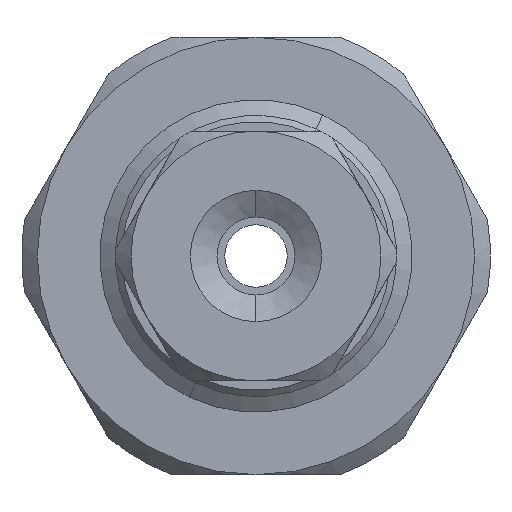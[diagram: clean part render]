
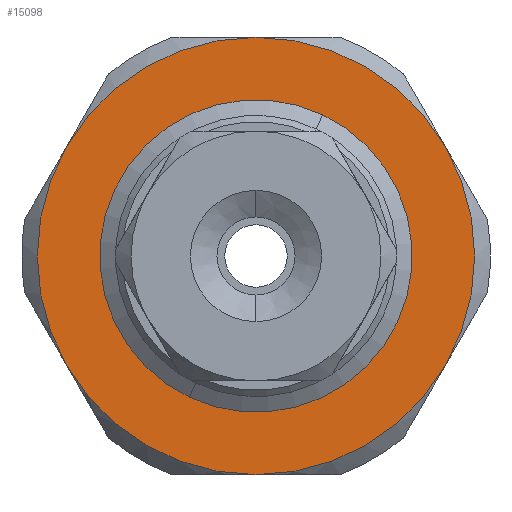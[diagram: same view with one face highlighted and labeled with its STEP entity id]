
A CAD part, front view. The second image highlights one B-rep face of the part: STEP entity #15098.
In plain terms, the highlighted planar face has unit normal (0, -1, 0).
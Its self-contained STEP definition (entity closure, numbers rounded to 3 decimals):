
#239 = EDGE_CURVE ( 'NONE', #6000, #9194, #18563, .T. ) ;
#326 = EDGE_LOOP ( 'NONE', ( #17266, #14863 ) ) ;
#469 = DIRECTION ( 'NONE',  ( 0., 0., 1. ) ) ;
#721 = CARTESIAN_POINT ( 'NONE',  ( 0.265, 14.37, 17. ) ) ;
#807 = ORIENTED_EDGE ( 'NONE', *, *, #8111, .T. ) ;
#867 = ORIENTED_EDGE ( 'NONE', *, *, #15751, .T. ) ;
#974 = CIRCLE ( 'NONE', #11398, 4.5 ) ;
#1003 = ORIENTED_EDGE ( 'NONE', *, *, #239, .T. ) ;
#1075 = VERTEX_POINT ( 'NONE', #2905 ) ;
#1169 = DIRECTION ( 'NONE',  ( 0., -1., 0. ) ) ;
#1240 = FACE_OUTER_BOUND ( 'NONE', #9760, .T. ) ;
#1617 = AXIS2_PLACEMENT_3D ( 'NONE', #4333, #15752, #5960 ) ;
#1761 = FACE_BOUND ( 'NONE', #326, .T. ) ;
#2101 = ORIENTED_EDGE ( 'NONE', *, *, #14896, .T. ) ;
#2212 = CIRCLE ( 'NONE', #1617, 7. ) ;
#2366 = CIRCLE ( 'NONE', #9967, 7. ) ;
#2400 = DIRECTION ( 'NONE',  ( 0., 0., 1. ) ) ;
#2451 = AXIS2_PLACEMENT_3D ( 'NONE', #17757, #7951, #19396 ) ;
#2530 = CARTESIAN_POINT ( 'NONE',  ( 0.265, 14.37, 17. ) ) ;
#2905 = CARTESIAN_POINT ( 'NONE',  ( 6.327, 14.37, 20.5 ) ) ;
#3780 = DIRECTION ( 'NONE',  ( 0., 1., 0. ) ) ;
#4155 = DIRECTION ( 'NONE',  ( 0., 0., 1. ) ) ;
#4333 = CARTESIAN_POINT ( 'NONE',  ( 0.265, 14.37, 17. ) ) ;
#4464 = CARTESIAN_POINT ( 'NONE',  ( 6.327, 14.37, 13.5 ) ) ;
#4759 = VERTEX_POINT ( 'NONE', #15619 ) ;
#4859 = CARTESIAN_POINT ( 'NONE',  ( 0.265, 14.37, 17. ) ) ;
#4920 = DIRECTION ( 'NONE',  ( 0., -1., 0. ) ) ;
#5385 = CARTESIAN_POINT ( 'NONE',  ( 0.265, 14.37, 21.5 ) ) ;
#5960 = DIRECTION ( 'NONE',  ( 0., 0., 1. ) ) ;
#6000 = VERTEX_POINT ( 'NONE', #12769 ) ;
#6031 = CARTESIAN_POINT ( 'NONE',  ( 0.265, 14.37, 17. ) ) ;
#6189 = ORIENTED_EDGE ( 'NONE', *, *, #20236, .T. ) ;
#6501 = DIRECTION ( 'NONE',  ( 0., 0., 1. ) ) ;
#7951 = DIRECTION ( 'NONE',  ( 0., 1., 0. ) ) ;
#8111 = EDGE_CURVE ( 'NONE', #4759, #6000, #8826, .T. ) ;
#8437 = CARTESIAN_POINT ( 'NONE',  ( 0.265, 14.37, 10. ) ) ;
#8794 = CARTESIAN_POINT ( 'NONE',  ( 0.265, 14.37, 24. ) ) ;
#8826 = CIRCLE ( 'NONE', #9179, 7. ) ;
#9179 = AXIS2_PLACEMENT_3D ( 'NONE', #2530, #13951, #4155 ) ;
#9194 = VERTEX_POINT ( 'NONE', #8437 ) ;
#9253 = EDGE_CURVE ( 'NONE', #16151, #14644, #974, .T. ) ;
#9470 = VERTEX_POINT ( 'NONE', #4464 ) ;
#9760 = EDGE_LOOP ( 'NONE', ( #807, #1003, #6189, #867, #10451, #2101 ) ) ;
#9967 = AXIS2_PLACEMENT_3D ( 'NONE', #721, #12160, #2400 ) ;
#10030 = EDGE_CURVE ( 'NONE', #14644, #16151, #10614, .T. ) ;
#10199 = PLANE ( 'NONE',  #17206 ) ;
#10278 = DIRECTION ( 'NONE',  ( 0., 1., 0. ) ) ;
#10451 = ORIENTED_EDGE ( 'NONE', *, *, #11219, .T. ) ;
#10614 = CIRCLE ( 'NONE', #2451, 4.5 ) ;
#11219 = EDGE_CURVE ( 'NONE', #1075, #12295, #2366, .T. ) ;
#11398 = AXIS2_PLACEMENT_3D ( 'NONE', #13546, #3780, #15208 ) ;
#12160 = DIRECTION ( 'NONE',  ( 0., -1., 0. ) ) ;
#12295 = VERTEX_POINT ( 'NONE', #8794 ) ;
#12769 = CARTESIAN_POINT ( 'NONE',  ( -5.797, 14.37, 13.5 ) ) ;
#13546 = CARTESIAN_POINT ( 'NONE',  ( 0.265, 14.37, 17. ) ) ;
#13951 = DIRECTION ( 'NONE',  ( 0., -1., 0. ) ) ;
#14546 = CIRCLE ( 'NONE', #18765, 7. ) ;
#14644 = VERTEX_POINT ( 'NONE', #15240 ) ;
#14736 = CARTESIAN_POINT ( 'NONE',  ( 0.265, 14.37, 17. ) ) ;
#14863 = ORIENTED_EDGE ( 'NONE', *, *, #10030, .T. ) ;
#14896 = EDGE_CURVE ( 'NONE', #12295, #4759, #15079, .T. ) ;
#15079 = CIRCLE ( 'NONE', #21079, 7. ) ;
#15098 = ADVANCED_FACE ( 'NONE', ( #1240, #1761 ), #10199, .F. ) ;
#15208 = DIRECTION ( 'NONE',  ( 0., 0., 1. ) ) ;
#15240 = CARTESIAN_POINT ( 'NONE',  ( 0.265, 14.37, 12.5 ) ) ;
#15619 = CARTESIAN_POINT ( 'NONE',  ( -5.797, 14.37, 20.5 ) ) ;
#15751 = EDGE_CURVE ( 'NONE', #9470, #1075, #2212, .T. ) ;
#15752 = DIRECTION ( 'NONE',  ( 0., -1., 0. ) ) ;
#16151 = VERTEX_POINT ( 'NONE', #5385 ) ;
#16310 = DIRECTION ( 'NONE',  ( 0., -1., 0. ) ) ;
#16354 = DIRECTION ( 'NONE',  ( 0., 0., 1. ) ) ;
#17206 = AXIS2_PLACEMENT_3D ( 'NONE', #20052, #10278, #469 ) ;
#17266 = ORIENTED_EDGE ( 'NONE', *, *, #9253, .T. ) ;
#17489 = AXIS2_PLACEMENT_3D ( 'NONE', #6031, #1169, #20721 ) ;
#17757 = CARTESIAN_POINT ( 'NONE',  ( 0.265, 14.37, 17. ) ) ;
#18563 = CIRCLE ( 'NONE', #17489, 7. ) ;
#18765 = AXIS2_PLACEMENT_3D ( 'NONE', #4859, #16310, #6501 ) ;
#19396 = DIRECTION ( 'NONE',  ( 0., 0., 1. ) ) ;
#20052 = CARTESIAN_POINT ( 'NONE',  ( 0.265, 14.37, 17. ) ) ;
#20236 = EDGE_CURVE ( 'NONE', #9194, #9470, #14546, .T. ) ;
#20721 = DIRECTION ( 'NONE',  ( 0., 0., 1. ) ) ;
#21079 = AXIS2_PLACEMENT_3D ( 'NONE', #14736, #4920, #16354 ) ;
